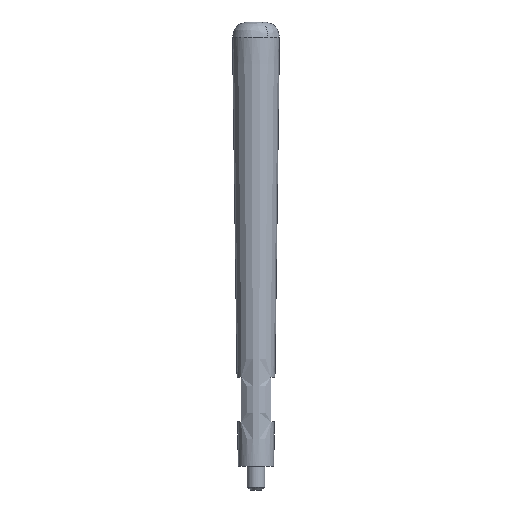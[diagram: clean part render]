
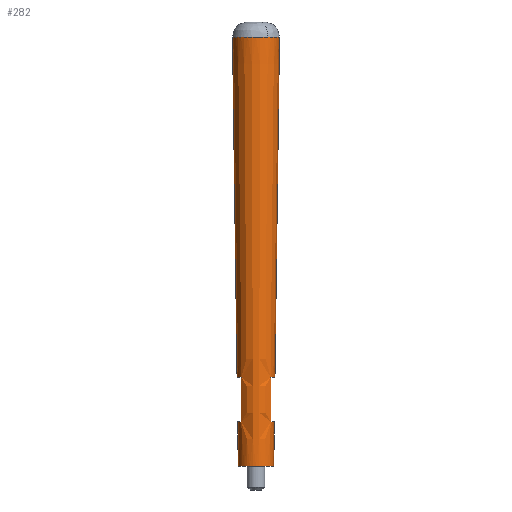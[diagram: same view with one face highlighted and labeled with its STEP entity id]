
A CAD part, front view. The second image highlights one B-rep face of the part: STEP entity #282.
In plain terms, the highlighted conical face has half-angle 0.764 degrees and reference radius 7.932 mm.
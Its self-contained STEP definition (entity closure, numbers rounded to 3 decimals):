
#3 = LINE ( 'NONE', #216, #741 ) ;
#4 = CONICAL_SURFACE ( 'NONE', #233, 7.932, 0.013 ) ;
#5 = ORIENTED_EDGE ( 'NONE', *, *, #321, .F. ) ;
#9 = VERTEX_POINT ( 'NONE', #345 ) ;
#14 = DIRECTION ( 'NONE',  ( 0., 0., -1. ) ) ;
#21 = CARTESIAN_POINT ( 'NONE',  ( 5., -3.888, 25. ) ) ;
#25 = AXIS2_PLACEMENT_3D ( 'NONE', #155, #95, #509 ) ;
#28 = CARTESIAN_POINT ( 'NONE',  ( -5., -3.779, 20. ) ) ;
#31 = VERTEX_POINT ( 'NONE', #418 ) ;
#36 = LINE ( 'NONE', #232, #702 ) ;
#40 = DIRECTION ( 'NONE',  ( 0.013, 0., 1. ) ) ;
#41 = EDGE_CURVE ( 'NONE', #501, #734, #48, .T. ) ;
#45 = DIRECTION ( 'NONE',  ( -0.878, -0.479, 0. ) ) ;
#47 = CARTESIAN_POINT ( 'NONE',  ( -6.4, 0., 30. ) ) ;
#48 = CIRCLE ( 'NONE', #771, 7.932 ) ;
#53 = ORIENTED_EDGE ( 'NONE', *, *, #332, .T. ) ;
#74 = VECTOR ( 'NONE', #40, 1000. ) ;
#77 = EDGE_CURVE ( 'NONE', #601, #311, #433, .T. ) ;
#82 = EDGE_CURVE ( 'NONE', #530, #9, #3, .T. ) ;
#84 = CARTESIAN_POINT ( 'NONE',  ( -7.932, 0., 144.933 ) ) ;
#85 = EDGE_CURVE ( 'NONE', #31, #440, #205, .T. ) ;
#94 = CARTESIAN_POINT ( 'NONE',  ( -5., -3.888, 25. ) ) ;
#95 = DIRECTION ( 'NONE',  ( 0., 0., 1. ) ) ;
#119 = EDGE_CURVE ( 'NONE', #549, #603, #546, .T. ) ;
#123 = AXIS2_PLACEMENT_3D ( 'NONE', #684, #147, #686 ) ;
#147 = DIRECTION ( 'NONE',  ( 0., 0., 1. ) ) ;
#150 = ORIENTED_EDGE ( 'NONE', *, *, #85, .F. ) ;
#153 = DIRECTION ( 'NONE',  ( -0.013, 0., 1. ) ) ;
#155 = CARTESIAN_POINT ( 'NONE',  ( 0., 0., 15. ) ) ;
#162 = CARTESIAN_POINT ( 'NONE',  ( 0., 0., 30. ) ) ;
#163 = VERTEX_POINT ( 'NONE', #604 ) ;
#165 = CARTESIAN_POINT ( 'NONE',  ( -5., -3.995, 30. ) ) ;
#167 = CARTESIAN_POINT ( 'NONE',  ( 4., -6.85, 144.933 ) ) ;
#171 = LINE ( 'NONE', #443, #320 ) ;
#177 = CARTESIAN_POINT ( 'NONE',  ( 0., 0., 15. ) ) ;
#195 = CARTESIAN_POINT ( 'NONE',  ( 7.932, 0., 144.933 ) ) ;
#205 = B_SPLINE_CURVE_WITH_KNOTS ( 'NONE', 3,
 ( #598, #28, #94, #165 ),
 .UNSPECIFIED., .F., .F.,
 ( 4, 4 ),
 ( 0.01, 0.025 ),
 .UNSPECIFIED. ) ;
#214 = CARTESIAN_POINT ( 'NONE',  ( 5., -3.666, 15. ) ) ;
#216 = CARTESIAN_POINT ( 'NONE',  ( 7.932, 0., 144.933 ) ) ;
#218 = EDGE_LOOP ( 'NONE', ( #5, #512, #547, #287, #436, #53, #277, #247, #621, #541, #662, #150, #781 ) ) ;
#227 = EDGE_CURVE ( 'NONE', #673, #734, #171, .T. ) ;
#232 = CARTESIAN_POINT ( 'NONE',  ( -7.932, 0., 144.933 ) ) ;
#233 = AXIS2_PLACEMENT_3D ( 'NONE', #533, #290, #302 ) ;
#247 = ORIENTED_EDGE ( 'NONE', *, *, #298, .T. ) ;
#251 = FACE_OUTER_BOUND ( 'NONE', #218, .T. ) ;
#276 = AXIS2_PLACEMENT_3D ( 'NONE', #671, #765, #400 ) ;
#277 = ORIENTED_EDGE ( 'NONE', *, *, #77, .T. ) ;
#282 = ADVANCED_FACE ( 'NONE', ( #251 ), #4, .T. ) ;
#287 = ORIENTED_EDGE ( 'NONE', *, *, #484, .F. ) ;
#290 = DIRECTION ( 'NONE',  ( 0., 0., 1. ) ) ;
#293 = DIRECTION ( 'NONE',  ( -0.013, 0., 1. ) ) ;
#298 = EDGE_CURVE ( 'NONE', #311, #501, #616, .T. ) ;
#302 = DIRECTION ( 'NONE',  ( 1., 0., 0. ) ) ;
#311 = VERTEX_POINT ( 'NONE', #195 ) ;
#320 = VECTOR ( 'NONE', #293, 1000. ) ;
#321 = EDGE_CURVE ( 'NONE', #346, #163, #36, .T. ) ;
#323 = AXIS2_PLACEMENT_3D ( 'NONE', #409, #444, #390 ) ;
#332 = EDGE_CURVE ( 'NONE', #549, #601, #691, .T. ) ;
#345 = CARTESIAN_POINT ( 'NONE',  ( 6.2, 0., 15. ) ) ;
#346 = VERTEX_POINT ( 'NONE', #371 ) ;
#347 = DIRECTION ( 'NONE',  ( 0., 0., 1. ) ) ;
#351 = CARTESIAN_POINT ( 'NONE',  ( 6., 0., 0. ) ) ;
#358 = CARTESIAN_POINT ( 'NONE',  ( 0., 0., 144.933 ) ) ;
#371 = CARTESIAN_POINT ( 'NONE',  ( -6., 0., 0. ) ) ;
#390 = DIRECTION ( 'NONE',  ( 1., 0., 0. ) ) ;
#395 = CARTESIAN_POINT ( 'NONE',  ( 5., -3.779, 20. ) ) ;
#400 = DIRECTION ( 'NONE',  ( -0.878, -0.479, 0. ) ) ;
#409 = CARTESIAN_POINT ( 'NONE',  ( 0., 0., 0. ) ) ;
#411 = CARTESIAN_POINT ( 'NONE',  ( 5., -3.995, 30. ) ) ;
#418 = CARTESIAN_POINT ( 'NONE',  ( -5., -3.666, 15. ) ) ;
#425 = CIRCLE ( 'NONE', #551, 6.4 ) ;
#433 = LINE ( 'NONE', #648, #74 ) ;
#436 = ORIENTED_EDGE ( 'NONE', *, *, #119, .F. ) ;
#440 = VERTEX_POINT ( 'NONE', #536 ) ;
#443 = CARTESIAN_POINT ( 'NONE',  ( -7.932, 0., 144.933 ) ) ;
#444 = DIRECTION ( 'NONE',  ( 0., 0., 1. ) ) ;
#454 = DIRECTION ( 'NONE',  ( -1., 0., 0. ) ) ;
#484 = EDGE_CURVE ( 'NONE', #603, #9, #630, .T. ) ;
#497 = DIRECTION ( 'NONE',  ( -1., 0., 0. ) ) ;
#501 = VERTEX_POINT ( 'NONE', #167 ) ;
#509 = DIRECTION ( 'NONE',  ( -1., 0., 0. ) ) ;
#512 = ORIENTED_EDGE ( 'NONE', *, *, #529, .T. ) ;
#515 = DIRECTION ( 'NONE',  ( 0., 0., 1. ) ) ;
#529 = EDGE_CURVE ( 'NONE', #346, #530, #532, .T. ) ;
#530 = VERTEX_POINT ( 'NONE', #351 ) ;
#532 = CIRCLE ( 'NONE', #323, 6. ) ;
#533 = CARTESIAN_POINT ( 'NONE',  ( 0., 0., 144.933 ) ) ;
#536 = CARTESIAN_POINT ( 'NONE',  ( -5., -3.995, 30. ) ) ;
#541 = ORIENTED_EDGE ( 'NONE', *, *, #227, .F. ) ;
#546 = B_SPLINE_CURVE_WITH_KNOTS ( 'NONE', 3,
 ( #767, #21, #395, #743 ),
 .UNSPECIFIED., .F., .F.,
 ( 4, 4 ),
 ( 0.038, 0.053 ),
 .UNSPECIFIED. ) ;
#547 = ORIENTED_EDGE ( 'NONE', *, *, #82, .T. ) ;
#549 = VERTEX_POINT ( 'NONE', #411 ) ;
#551 = AXIS2_PLACEMENT_3D ( 'NONE', #162, #515, #454 ) ;
#598 = CARTESIAN_POINT ( 'NONE',  ( -5., -3.666, 15. ) ) ;
#601 = VERTEX_POINT ( 'NONE', #672 ) ;
#603 = VERTEX_POINT ( 'NONE', #214 ) ;
#604 = CARTESIAN_POINT ( 'NONE',  ( -6.2, 0., 15. ) ) ;
#606 = CIRCLE ( 'NONE', #25, 6.2 ) ;
#616 = CIRCLE ( 'NONE', #276, 7.932 ) ;
#621 = ORIENTED_EDGE ( 'NONE', *, *, #41, .T. ) ;
#630 = CIRCLE ( 'NONE', #718, 6.2 ) ;
#637 = DIRECTION ( 'NONE',  ( 0.013, 0., 1. ) ) ;
#648 = CARTESIAN_POINT ( 'NONE',  ( 7.932, 0., 144.933 ) ) ;
#662 = ORIENTED_EDGE ( 'NONE', *, *, #736, .T. ) ;
#671 = CARTESIAN_POINT ( 'NONE',  ( 0., 0., 144.933 ) ) ;
#672 = CARTESIAN_POINT ( 'NONE',  ( 6.4, 0., 30. ) ) ;
#673 = VERTEX_POINT ( 'NONE', #47 ) ;
#679 = EDGE_CURVE ( 'NONE', #163, #31, #606, .T. ) ;
#684 = CARTESIAN_POINT ( 'NONE',  ( 0., 0., 30. ) ) ;
#686 = DIRECTION ( 'NONE',  ( -1., 0., 0. ) ) ;
#691 = CIRCLE ( 'NONE', #123, 6.4 ) ;
#702 = VECTOR ( 'NONE', #153, 1000. ) ;
#718 = AXIS2_PLACEMENT_3D ( 'NONE', #177, #347, #497 ) ;
#734 = VERTEX_POINT ( 'NONE', #84 ) ;
#736 = EDGE_CURVE ( 'NONE', #673, #440, #425, .T. ) ;
#741 = VECTOR ( 'NONE', #637, 1000. ) ;
#743 = CARTESIAN_POINT ( 'NONE',  ( 5., -3.666, 15. ) ) ;
#765 = DIRECTION ( 'NONE',  ( 0., 0., -1. ) ) ;
#767 = CARTESIAN_POINT ( 'NONE',  ( 5., -3.995, 30. ) ) ;
#771 = AXIS2_PLACEMENT_3D ( 'NONE', #358, #14, #45 ) ;
#781 = ORIENTED_EDGE ( 'NONE', *, *, #679, .F. ) ;
